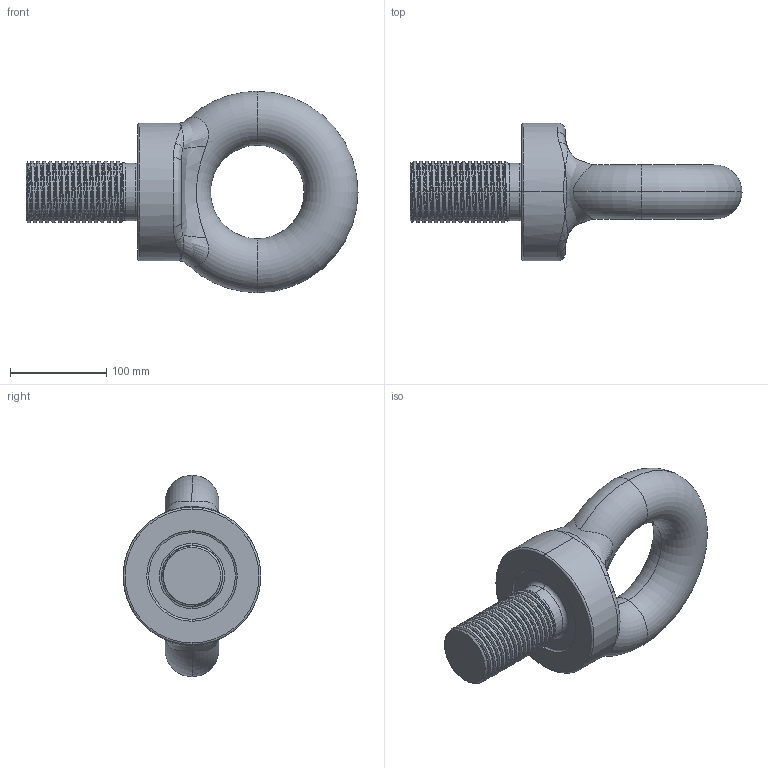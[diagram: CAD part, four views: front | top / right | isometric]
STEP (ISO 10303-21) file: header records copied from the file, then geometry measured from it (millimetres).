
FILE_DESCRIPTION (( 'STEP AP203' ), '1' );
FILE_NAME ('EBW2500.STEP', '2014-03-07T02:14:04', ( '' ), ( '' ), 'SwSTEP 2.0', 'SolidWorks 2012', '' );
FILE_SCHEMA (( 'CONFIG_CONTROL_DESIGN' ));
Length unit declared in the file: millimetre
Products named in the file (1): EBW2500
Bounding box: 344.5 x 143 x 209 mm (x, y, z)
Volume: 2189483.4 mm3; surface area: 146650.1 mm2
Topology: 1 solids, 1 shells, 79 faces, 213 edges, 128 vertices
Faces by surface type: cylinder 36, bspline 19, torus 12, cone 7, plane 5
Entity records: 13634 total; most frequent: CARTESIAN_POINT 11946, ORIENTED_EDGE 410, DIRECTION 269, EDGE_CURVE 205, VERTEX_POINT 128, AXIS2_PLACEMENT_3D 114, EDGE_LOOP 81, FACE_OUTER_BOUND 79
